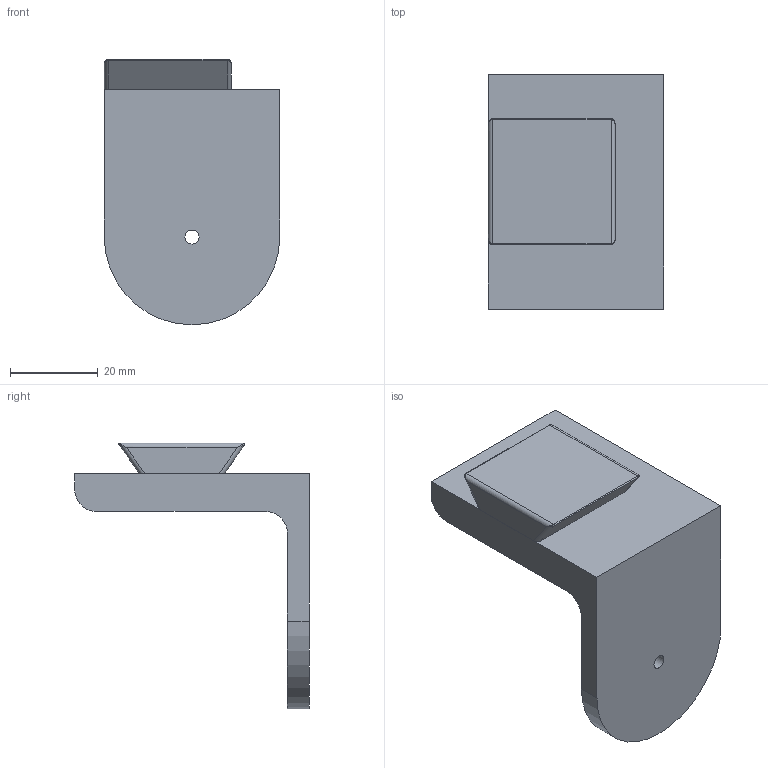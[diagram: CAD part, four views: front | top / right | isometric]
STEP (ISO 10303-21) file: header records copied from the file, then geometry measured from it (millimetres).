
FILE_DESCRIPTION(/* description */ (''),/* implementation_level */ '2;1');
FILE_NAME(/* name */ 'C:\Users\Banwz\Desktop\ВИМ\Агронабор\Агронабор Релиз\Насадки\Бур\База1.stp',/* time_stamp */ '2023-05-04T00:15:01+03:00',/* author */ ('Banwz'),/* organization */ (''),/* preprocessor_version */ 'ST-DEVELOPER v18.1',/* originating_system */ 'Autodesk Inventor 2021',/* authorisation */ '');
FILE_SCHEMA (('AUTOMOTIVE_DESIGN { 1 0 10303 214 3 1 1 }'));
Length unit declared in the file: millimetre
Products named in the file (1): База1
Bounding box: 40 x 53.5 x 60.55 mm (x, y, z)
Volume: 31422 mm3; surface area: 11545.8 mm2
Topology: 2 solids, 2 shells, 33 faces, 78 edges, 45 vertices
Faces by surface type: cylinder 14, plane 14, bspline 4, cone 1
Full cylindrical faces by diameter (mm): 3.2 x1
Entity records: 1059 total; most frequent: CARTESIAN_POINT 269, DIRECTION 161, ORIENTED_EDGE 148, EDGE_CURVE 74, AXIS2_PLACEMENT_3D 57, LINE 47, VECTOR 47, VERTEX_POINT 45
